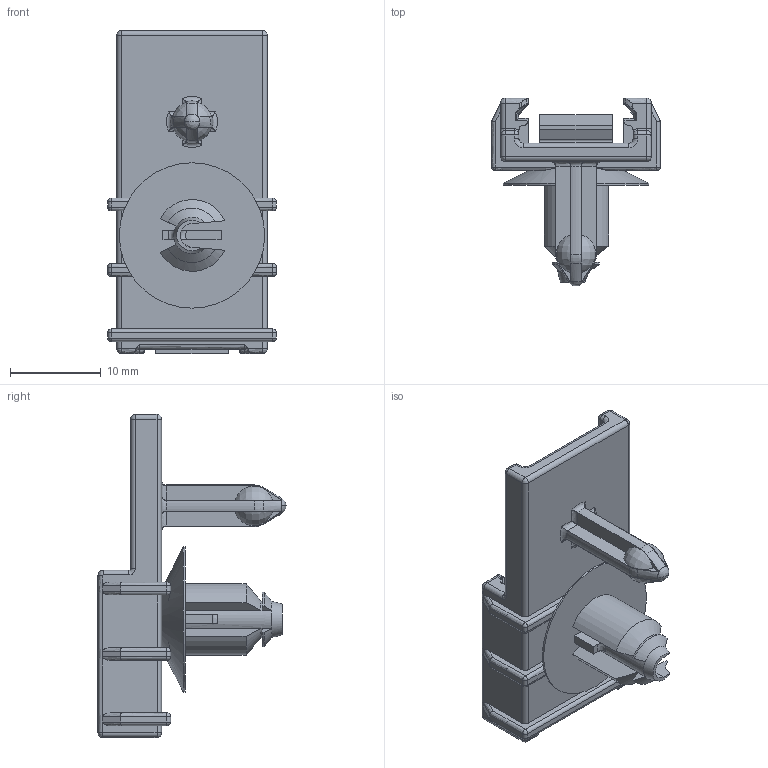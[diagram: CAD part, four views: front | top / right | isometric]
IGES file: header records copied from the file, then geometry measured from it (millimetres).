
Start section:  PTC IGES file: c-1011-310-0205-99-3d.igs
Global section: file name: c-1011-310-0205-99-3d.igs; native system: Creo Parametric by Parametric Technology Corporation; preprocessor: 2013050; author: workeradm; organization: Unknown; units: millimetre
Bounding box: 18.56 x 20.7 x 35.56 mm (x, y, z)
Surface area: 3216.1 mm2 (no closed solid volume)
Topology: 0 solids, 0 shells, 333 faces, 1714 edges, 1712 vertices
Faces by surface type: revolution 201, bspline 128, extrusion 4
